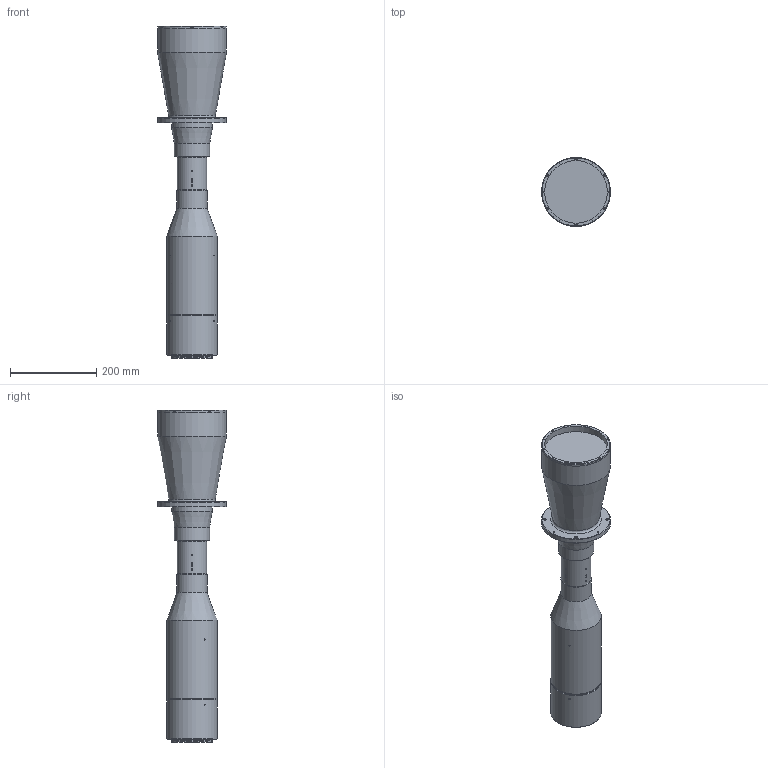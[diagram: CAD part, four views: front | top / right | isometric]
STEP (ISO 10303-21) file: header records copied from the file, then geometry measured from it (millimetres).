
FILE_DESCRIPTION (( 'STEP AP203' ), '1' );
FILE_NAME ('3d_mtl-13582m95-061_a001.STEP', '2017-07-12T04:59:13', ( '' ), ( '' ), 'SwSTEP 2.0', 'SolidWorks 2014', '' );
FILE_SCHEMA (( 'CONFIG_CONTROL_DESIGN' ));
Length unit declared in the file: millimetre
Products named in the file (1): 3d_mtl-13582m95-061_a001
Bounding box: 160 x 160 x 770.23 mm (x, y, z)
Volume: 5727866 mm3; surface area: 429673.1 mm2
Topology: 1 solids, 1 shells, 492 faces, 1131 edges, 712 vertices
Faces by surface type: plane 291, cylinder 114, cone 75, torus 12
Full cylindrical faces by diameter (mm): 1.5 x10, 1.6 x12, 2.5 x6, 3 x16, 4.2 x4, 4.6 x6, 5.5 x4, 6 x4, 6.5 x4, 68 x1, 70 x1, 73 x1, 82 x1, 85 x1, 89 x1, 92 x1, 93.4 x1, 94 x1, 95 x2, 100 x1, 102 x2, 104 x2, 105.25 x1, 106 x1, 107.25 x1, 109 x1, 115 x1, 116 x1, 117 x2, 145.5 x1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
Entity records: 13857 total; most frequent: CARTESIAN_POINT 3516, DIRECTION 2138, ORIENTED_EDGE 1822, EDGE_CURVE 911, AXIS2_PLACEMENT_3D 801, EDGE_LOOP 748, VERTEX_POINT 663, FACE_OUTER_BOUND 597
